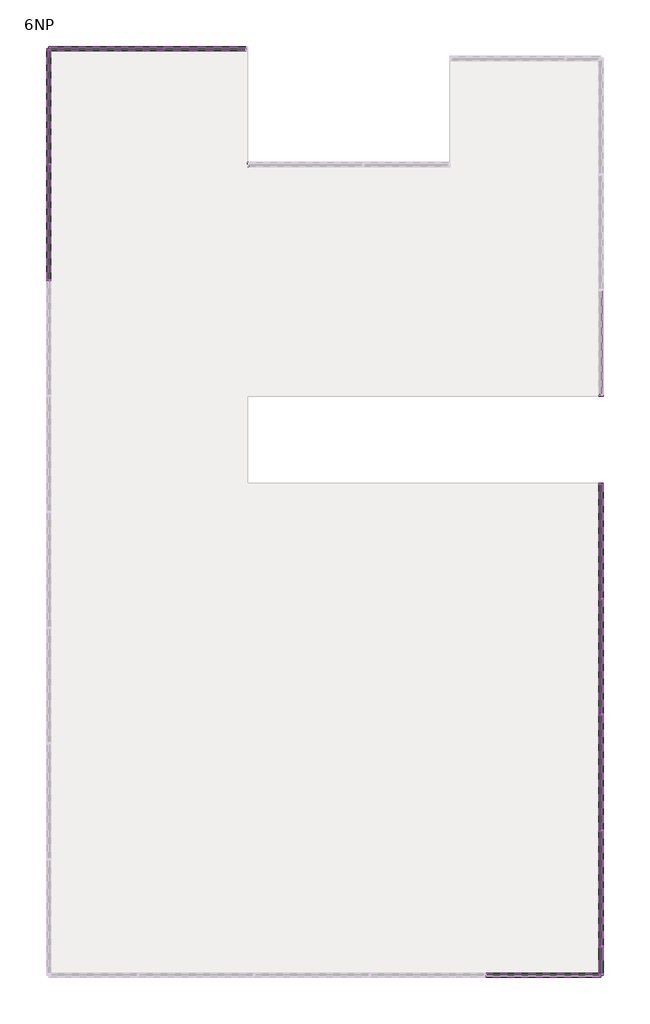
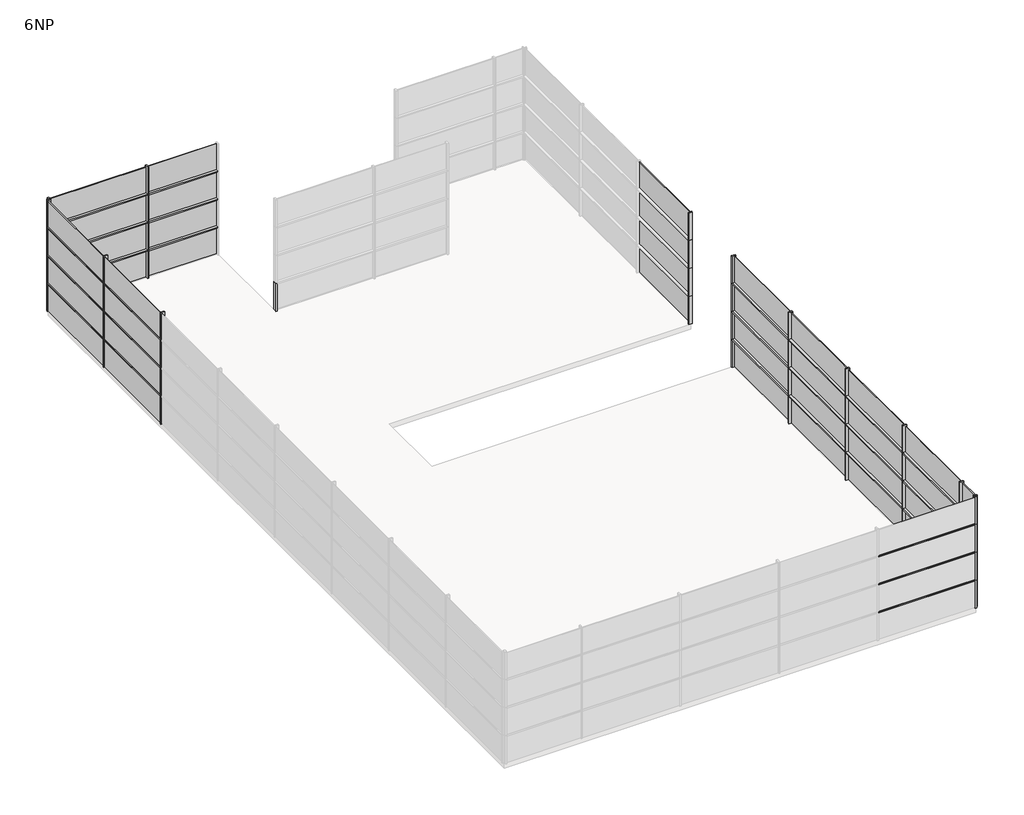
# One storey, part 2 of 3: 83 members, 37 plates.
"""IFC4 building model written with IfcOpenShell, lengths in millimetres."""

from ifc_helpers import new_model, si_unit, origin, place, context, project, spatial, transform, mapped, element, save
from components import rectangular_mullion_50_x_150mm_d99dc9be, rectangular_mullion_50_x_150mm_6588f46c, rectangular_mullion_50_x_150mm_a037c29c, rectangular_mullion_50_x_150mm_c2546fd4, rectangular_mullion_50_x_150mm_568dda71, rectangular_mullion_50_x_150mm_268a5786, rectangular_mullion_50_x_150mm_116cff39, rectangular_mullion_50_x_150mm_8b4cb4b7, system_panel_glazed_8e9402eb, system_panel_glazed_89ac83a7, system_panel_glazed_5566c609, system_panel_glazed_cf4d7c03, system_panel_glazed_7b3729bb, system_panel_glazed_1a112643, system_panel_glazed_9f27e4b4, system_panel_glazed_e890f31e, system_panel_glazed_569c36ed

model = new_model("IFC4")

# Units and contexts
model_context = context("Model", 3, world=origin())
ifc_project = project(units=[si_unit("LENGTHUNIT", "METRE", prefix="MILLI")], contexts=[model_context])

# Site, building, storey
site = spatial("IfcSite", under=ifc_project)
building = spatial("IfcBuilding", under=site)
storey = spatial("IfcBuildingStorey", under=building, Name="6NP", Elevation=24000.0)

# Members
placement = place(None, origin())
rectangular_mullion_50_x_150mm_shape = rectangular_mullion_50_x_150mm_d99dc9be(model_context)
element("IfcMember", 1, ObjectType="Rectangular Mullion : 50 x 150mm", at=placement, inside=storey, context=model_context, shape_type="MappedRepresentation", body=[
    mapped(rectangular_mullion_50_x_150mm_shape, transform((13503.2660975, -10624.0160434, 25200.0), x_axis=(0.0, -1.0, 0.0), y_axis=(1.0, 0.0, 0.0), z_axis=(0.0, 0.0, 1.0))),
])
element("IfcMember", 2, ObjectType="Rectangular Mullion : 50 x 150mm", at=placement, inside=storey, context=model_context, shape_type="MappedRepresentation", body=[
    mapped(rectangular_mullion_50_x_150mm_shape, transform((13503.2660975, -10624.0160434, 26400.0), x_axis=(0.0, -1.0, 0.0), y_axis=(1.0, 0.0, 0.0), z_axis=(0.0, 0.0, 1.0))),
])
element("IfcMember", 3, ObjectType="Rectangular Mullion : 50 x 150mm", at=placement, inside=storey, context=model_context, shape_type="MappedRepresentation", body=[
    mapped(rectangular_mullion_50_x_150mm_shape, transform((13503.2660975, -10624.0160434, 27600.0), x_axis=(0.0, -1.0, 0.0), y_axis=(1.0, 0.0, 0.0), z_axis=(0.0, 0.0, 1.0))),
])
element("IfcMember", 4, ObjectType="Rectangular Mullion : 50 x 150mm", at=placement, inside=storey, context=model_context, shape_type="MappedRepresentation", body=[
    mapped(rectangular_mullion_50_x_150mm_shape, transform((13503.2660975, -14624.0160434, 25200.0), x_axis=(0.0, -1.0, 0.0), y_axis=(1.0, 0.0, 0.0), z_axis=(0.0, 0.0, 1.0))),
])
element("IfcMember", 5, ObjectType="Rectangular Mullion : 50 x 150mm", at=placement, inside=storey, context=model_context, shape_type="MappedRepresentation", body=[
    mapped(rectangular_mullion_50_x_150mm_shape, transform((13503.2660975, -14624.0160434, 26400.0), x_axis=(0.0, -1.0, 0.0), y_axis=(1.0, 0.0, 0.0), z_axis=(0.0, 0.0, 1.0))),
])
element("IfcMember", 6, ObjectType="Rectangular Mullion : 50 x 150mm", at=placement, inside=storey, context=model_context, shape_type="MappedRepresentation", body=[
    mapped(rectangular_mullion_50_x_150mm_shape, transform((13503.2660975, -14624.0160434, 27600.0), x_axis=(0.0, -1.0, 0.0), y_axis=(1.0, 0.0, 0.0), z_axis=(0.0, 0.0, 1.0))),
])
element("IfcMember", 7, ObjectType="Rectangular Mullion : 50 x 150mm", at=placement, inside=storey, context=model_context, shape_type="MappedRepresentation", body=[
    mapped(rectangular_mullion_50_x_150mm_shape, transform((13503.2660975, -18624.0160434, 25200.0), x_axis=(0.0, -1.0, 0.0), y_axis=(1.0, 0.0, 0.0), z_axis=(0.0, 0.0, 1.0))),
])
element("IfcMember", 8, ObjectType="Rectangular Mullion : 50 x 150mm", at=placement, inside=storey, context=model_context, shape_type="MappedRepresentation", body=[
    mapped(rectangular_mullion_50_x_150mm_shape, transform((13503.2660975, -18624.0160434, 26400.0), x_axis=(0.0, -1.0, 0.0), y_axis=(1.0, 0.0, 0.0), z_axis=(0.0, 0.0, 1.0))),
])
element("IfcMember", 9, ObjectType="Rectangular Mullion : 50 x 150mm", at=placement, inside=storey, context=model_context, shape_type="MappedRepresentation", body=[
    mapped(rectangular_mullion_50_x_150mm_shape, transform((13503.2660975, -18624.0160434, 27600.0), x_axis=(0.0, -1.0, 0.0), y_axis=(1.0, 0.0, 0.0), z_axis=(0.0, 0.0, 1.0))),
])
element("IfcMember", 10, ObjectType="Rectangular Mullion : 50 x 150mm", at=placement, inside=storey, context=model_context, shape_type="MappedRepresentation", body=[
    mapped(rectangular_mullion_50_x_150mm_shape, transform((13503.2660975, -22624.0160434, 25200.0), x_axis=(0.0, -1.0, 0.0), y_axis=(1.0, 0.0, 0.0), z_axis=(0.0, 0.0, 1.0))),
])
element("IfcMember", 11, ObjectType="Rectangular Mullion : 50 x 150mm", at=placement, inside=storey, context=model_context, shape_type="MappedRepresentation", body=[
    mapped(rectangular_mullion_50_x_150mm_shape, transform((13503.2660975, -22624.0160434, 26400.0), x_axis=(0.0, -1.0, 0.0), y_axis=(1.0, 0.0, 0.0), z_axis=(0.0, 0.0, 1.0))),
])
element("IfcMember", 12, ObjectType="Rectangular Mullion : 50 x 150mm", at=placement, inside=storey, context=model_context, shape_type="MappedRepresentation", body=[
    mapped(rectangular_mullion_50_x_150mm_shape, transform((13503.2660975, -22624.0160434, 27600.0), x_axis=(0.0, -1.0, 0.0), y_axis=(1.0, 0.0, 0.0), z_axis=(0.0, 0.0, 1.0))),
])
element("IfcMember", 13, ObjectType="Rectangular Mullion : 50 x 150mm", at=placement, inside=storey, context=model_context, shape_type="MappedRepresentation", body=[
    mapped(rectangular_mullion_50_x_150mm_shape, transform((-5587.173406, 375.9839566, 25200.0), x_axis=(0.0, 1.0, 0.0), y_axis=(-1.0, 0.0, 0.0), z_axis=(0.0, 0.0, 1.0))),
])
element("IfcMember", 14, ObjectType="Rectangular Mullion : 50 x 150mm", at=placement, inside=storey, context=model_context, shape_type="MappedRepresentation", body=[
    mapped(rectangular_mullion_50_x_150mm_shape, transform((-5587.173406, 375.9839566, 26400.0), x_axis=(0.0, 1.0, 0.0), y_axis=(-1.0, 0.0, 0.0), z_axis=(0.0, 0.0, 1.0))),
])
element("IfcMember", 15, ObjectType="Rectangular Mullion : 50 x 150mm", at=placement, inside=storey, context=model_context, shape_type="MappedRepresentation", body=[
    mapped(rectangular_mullion_50_x_150mm_shape, transform((-5587.173406, 375.9839566, 27600.0), x_axis=(0.0, 1.0, 0.0), y_axis=(-1.0, 0.0, 0.0), z_axis=(0.0, 0.0, 1.0))),
])
element("IfcMember", 16, ObjectType="Rectangular Mullion : 50 x 150mm", at=placement, inside=storey, context=model_context, shape_type="MappedRepresentation", body=[
    mapped(rectangular_mullion_50_x_150mm_shape, transform((-5587.173406, 4375.9839566, 25200.0), x_axis=(0.0, 1.0, 0.0), y_axis=(-1.0, 0.0, 0.0), z_axis=(0.0, 0.0, 1.0))),
])
element("IfcMember", 17, ObjectType="Rectangular Mullion : 50 x 150mm", at=placement, inside=storey, context=model_context, shape_type="MappedRepresentation", body=[
    mapped(rectangular_mullion_50_x_150mm_shape, transform((-5587.173406, 4375.9839566, 26400.0), x_axis=(0.0, 1.0, 0.0), y_axis=(-1.0, 0.0, 0.0), z_axis=(0.0, 0.0, 1.0))),
])
element("IfcMember", 18, ObjectType="Rectangular Mullion : 50 x 150mm", at=placement, inside=storey, context=model_context, shape_type="MappedRepresentation", body=[
    mapped(rectangular_mullion_50_x_150mm_shape, transform((-5587.173406, 4375.9839566, 27600.0), x_axis=(0.0, 1.0, 0.0), y_axis=(-1.0, 0.0, 0.0), z_axis=(0.0, 0.0, 1.0))),
])
element("IfcMember", 19, ObjectType="Rectangular Mullion : 50 x 150mm", at=placement, inside=storey, context=model_context, shape_type="MappedRepresentation", body=[
    mapped(rectangular_mullion_50_x_150mm_shape, transform((-1587.173406, 8375.9839566, 25200.0), x_axis=(1.0, 0.0, 0.0), y_axis=(0.0, 1.0, 0.0), z_axis=(0.0, 0.0, 1.0))),
])
element("IfcMember", 20, ObjectType="Rectangular Mullion : 50 x 150mm", at=placement, inside=storey, context=model_context, shape_type="MappedRepresentation", body=[
    mapped(rectangular_mullion_50_x_150mm_shape, transform((-1587.173406, 8375.9839566, 26400.0), x_axis=(1.0, 0.0, 0.0), y_axis=(0.0, 1.0, 0.0), z_axis=(0.0, 0.0, 1.0))),
])
element("IfcMember", 21, ObjectType="Rectangular Mullion : 50 x 150mm", at=placement, inside=storey, context=model_context, shape_type="MappedRepresentation", body=[
    mapped(rectangular_mullion_50_x_150mm_shape, transform((-1587.173406, 8375.9839566, 27600.0), x_axis=(1.0, 0.0, 0.0), y_axis=(0.0, 1.0, 0.0), z_axis=(0.0, 0.0, 1.0))),
])
rectangular_mullion_50_x_150mm_2_shape = rectangular_mullion_50_x_150mm_6588f46c(model_context)
element("IfcMember", 22, ObjectType="Rectangular Mullion : 50 x 150mm", at=placement, inside=storey, context=model_context, shape_type="MappedRepresentation", body=[
    mapped(rectangular_mullion_50_x_150mm_2_shape, transform((13503.2660975, -3624.0160434, 27600.0), x_axis=(0.0, -1.0, 0.0), y_axis=(1.0, 0.0, 0.0), z_axis=(0.0, 0.0, 1.0))),
])
element("IfcMember", 23, ObjectType="Rectangular Mullion : 50 x 150mm", at=placement, inside=storey, context=model_context, shape_type="MappedRepresentation", body=[
    mapped(rectangular_mullion_50_x_150mm_2_shape, transform((13503.2660975, -3624.0160434, 26400.0), x_axis=(0.0, -1.0, 0.0), y_axis=(1.0, 0.0, 0.0), z_axis=(0.0, 0.0, 1.0))),
])
element("IfcMember", 24, ObjectType="Rectangular Mullion : 50 x 150mm", at=placement, inside=storey, context=model_context, shape_type="MappedRepresentation", body=[
    mapped(rectangular_mullion_50_x_150mm_2_shape, transform((13503.2660975, -3624.0160434, 25200.0), x_axis=(0.0, -1.0, 0.0), y_axis=(1.0, 0.0, 0.0), z_axis=(0.0, 0.0, 1.0))),
])
element("IfcMember", 25, ObjectType="Rectangular Mullion : 50 x 150mm", at=placement, inside=storey, context=model_context, shape_type="MappedRepresentation", body=[
    mapped(rectangular_mullion_50_x_150mm_2_shape, transform((13503.2660975, -23624.0160434, 25200.0), x_axis=(0.0, -1.0, 0.0), y_axis=(1.0, 0.0, 0.0), z_axis=(0.0, 0.0, 1.0))),
])
element("IfcMember", 26, ObjectType="Rectangular Mullion : 50 x 150mm", at=placement, inside=storey, context=model_context, shape_type="MappedRepresentation", body=[
    mapped(rectangular_mullion_50_x_150mm_2_shape, transform((13503.2660975, -23624.0160434, 26400.0), x_axis=(0.0, -1.0, 0.0), y_axis=(1.0, 0.0, 0.0), z_axis=(0.0, 0.0, 1.0))),
])
element("IfcMember", 27, ObjectType="Rectangular Mullion : 50 x 150mm", at=placement, inside=storey, context=model_context, shape_type="MappedRepresentation", body=[
    mapped(rectangular_mullion_50_x_150mm_2_shape, transform((13503.2660975, -23624.0160434, 27600.0), x_axis=(0.0, -1.0, 0.0), y_axis=(1.0, 0.0, 0.0), z_axis=(0.0, 0.0, 1.0))),
])
element("IfcMember", 28, ObjectType="Rectangular Mullion : 50 x 150mm", at=placement, inside=storey, context=model_context, shape_type="MappedRepresentation", body=[
    mapped(rectangular_mullion_50_x_150mm_2_shape, transform((-5587.173406, 8375.9839566, 25200.0), x_axis=(0.0, 1.0, 0.0), y_axis=(-1.0, 0.0, 0.0), z_axis=(0.0, 0.0, 1.0))),
])
element("IfcMember", 29, ObjectType="Rectangular Mullion : 50 x 150mm", at=placement, inside=storey, context=model_context, shape_type="MappedRepresentation", body=[
    mapped(rectangular_mullion_50_x_150mm_2_shape, transform((-5587.173406, 8375.9839566, 26400.0), x_axis=(0.0, 1.0, 0.0), y_axis=(-1.0, 0.0, 0.0), z_axis=(0.0, 0.0, 1.0))),
])
element("IfcMember", 30, ObjectType="Rectangular Mullion : 50 x 150mm", at=placement, inside=storey, context=model_context, shape_type="MappedRepresentation", body=[
    mapped(rectangular_mullion_50_x_150mm_2_shape, transform((-5587.173406, 8375.9839566, 27600.0), x_axis=(0.0, 1.0, 0.0), y_axis=(-1.0, 0.0, 0.0), z_axis=(0.0, 0.0, 1.0))),
])
rectangular_mullion_50_x_150mm_3_shape = rectangular_mullion_50_x_150mm_a037c29c(model_context)
element("IfcMember", 31, ObjectType="Rectangular Mullion : 50 x 150mm", at=placement, inside=storey, context=model_context, shape_type="MappedRepresentation", body=[
    mapped(rectangular_mullion_50_x_150mm_3_shape, transform((13503.2660975, -10649.0160434, 25200.0), x_axis=(0.0, 0.0, 1.0), y_axis=(1.0, 0.0, 0.0), z_axis=(0.0, 1.0, 0.0))),
])
element("IfcMember", 32, ObjectType="Rectangular Mullion : 50 x 150mm", at=placement, inside=storey, context=model_context, shape_type="MappedRepresentation", body=[
    mapped(rectangular_mullion_50_x_150mm_3_shape, transform((13503.2660975, -14649.0160434, 25200.0), x_axis=(0.0, 0.0, 1.0), y_axis=(1.0, 0.0, 0.0), z_axis=(0.0, 1.0, 0.0))),
])
element("IfcMember", 33, ObjectType="Rectangular Mullion : 50 x 150mm", at=placement, inside=storey, context=model_context, shape_type="MappedRepresentation", body=[
    mapped(rectangular_mullion_50_x_150mm_3_shape, transform((13503.2660975, -18649.0160434, 25200.0), x_axis=(0.0, 0.0, 1.0), y_axis=(1.0, 0.0, 0.0), z_axis=(0.0, 1.0, 0.0))),
])
element("IfcMember", 34, ObjectType="Rectangular Mullion : 50 x 150mm", at=placement, inside=storey, context=model_context, shape_type="MappedRepresentation", body=[
    mapped(rectangular_mullion_50_x_150mm_3_shape, transform((13503.2660975, -10649.0160434, 26400.0), x_axis=(0.0, 0.0, 1.0), y_axis=(1.0, 0.0, 0.0), z_axis=(0.0, 1.0, 0.0))),
])
element("IfcMember", 35, ObjectType="Rectangular Mullion : 50 x 150mm", at=placement, inside=storey, context=model_context, shape_type="MappedRepresentation", body=[
    mapped(rectangular_mullion_50_x_150mm_3_shape, transform((13503.2660975, -14649.0160434, 26400.0), x_axis=(0.0, 0.0, 1.0), y_axis=(1.0, 0.0, 0.0), z_axis=(0.0, 1.0, 0.0))),
])
element("IfcMember", 36, ObjectType="Rectangular Mullion : 50 x 150mm", at=placement, inside=storey, context=model_context, shape_type="MappedRepresentation", body=[
    mapped(rectangular_mullion_50_x_150mm_3_shape, transform((13503.2660975, -18649.0160434, 26400.0), x_axis=(0.0, 0.0, 1.0), y_axis=(1.0, 0.0, 0.0), z_axis=(0.0, 1.0, 0.0))),
])
element("IfcMember", 37, ObjectType="Rectangular Mullion : 50 x 150mm", at=placement, inside=storey, context=model_context, shape_type="MappedRepresentation", body=[
    mapped(rectangular_mullion_50_x_150mm_3_shape, transform((13503.2660975, -10649.0160434, 27600.0), x_axis=(0.0, 0.0, 1.0), y_axis=(1.0, 0.0, 0.0), z_axis=(0.0, 1.0, 0.0))),
])
element("IfcMember", 38, ObjectType="Rectangular Mullion : 50 x 150mm", at=placement, inside=storey, context=model_context, shape_type="MappedRepresentation", body=[
    mapped(rectangular_mullion_50_x_150mm_3_shape, transform((13503.2660975, -14649.0160434, 27600.0), x_axis=(0.0, 0.0, 1.0), y_axis=(1.0, 0.0, 0.0), z_axis=(0.0, 1.0, 0.0))),
])
element("IfcMember", 39, ObjectType="Rectangular Mullion : 50 x 150mm", at=placement, inside=storey, context=model_context, shape_type="MappedRepresentation", body=[
    mapped(rectangular_mullion_50_x_150mm_3_shape, transform((13503.2660975, -18649.0160434, 27600.0), x_axis=(0.0, 0.0, 1.0), y_axis=(1.0, 0.0, 0.0), z_axis=(0.0, 1.0, 0.0))),
])
element("IfcMember", 40, ObjectType="Rectangular Mullion : 50 x 150mm", at=placement, inside=storey, context=model_context, shape_type="MappedRepresentation", body=[
    mapped(rectangular_mullion_50_x_150mm_3_shape, transform((-5587.173406, 400.9839566, 25200.0), x_axis=(0.0, 0.0, 1.0), y_axis=(-1.0, 0.0, 0.0), z_axis=(0.0, -1.0, 0.0))),
])
element("IfcMember", 41, ObjectType="Rectangular Mullion : 50 x 150mm", at=placement, inside=storey, context=model_context, shape_type="MappedRepresentation", body=[
    mapped(rectangular_mullion_50_x_150mm_3_shape, transform((-5587.173406, 400.9839566, 26400.0), x_axis=(0.0, 0.0, 1.0), y_axis=(-1.0, 0.0, 0.0), z_axis=(0.0, -1.0, 0.0))),
])
element("IfcMember", 42, ObjectType="Rectangular Mullion : 50 x 150mm", at=placement, inside=storey, context=model_context, shape_type="MappedRepresentation", body=[
    mapped(rectangular_mullion_50_x_150mm_3_shape, transform((-5587.173406, 400.9839566, 27600.0), x_axis=(0.0, 0.0, 1.0), y_axis=(-1.0, 0.0, 0.0), z_axis=(0.0, -1.0, 0.0))),
])
rectangular_mullion_50_x_150mm_4_shape = rectangular_mullion_50_x_150mm_c2546fd4(model_context)
element("IfcMember", 43, ObjectType="Rectangular Mullion : 50 x 150mm", at=placement, inside=storey, context=model_context, shape_type="MappedRepresentation", body=[
    mapped(rectangular_mullion_50_x_150mm_4_shape, transform((13503.2660975, -6674.0160434, 25200.0), x_axis=(0.0, 0.0, 1.0), y_axis=(1.0, 0.0, 0.0), z_axis=(0.0, 1.0, 0.0))),
])
element("IfcMember", 44, ObjectType="Rectangular Mullion : 50 x 150mm", at=placement, inside=storey, context=model_context, shape_type="MappedRepresentation", body=[
    mapped(rectangular_mullion_50_x_150mm_4_shape, transform((13503.2660975, -6674.0160434, 26400.0), x_axis=(0.0, 0.0, 1.0), y_axis=(1.0, 0.0, 0.0), z_axis=(0.0, 1.0, 0.0))),
])
element("IfcMember", 45, ObjectType="Rectangular Mullion : 50 x 150mm", at=placement, inside=storey, context=model_context, shape_type="MappedRepresentation", body=[
    mapped(rectangular_mullion_50_x_150mm_4_shape, transform((13503.2660975, -6674.0160434, 27600.0), x_axis=(0.0, 0.0, 1.0), y_axis=(1.0, 0.0, 0.0), z_axis=(0.0, 1.0, 0.0))),
])
element("IfcMember", 46, ObjectType="Rectangular Mullion : 50 x 150mm", at=placement, inside=storey, context=model_context, shape_type="MappedRepresentation", body=[
    mapped(rectangular_mullion_50_x_150mm_4_shape, transform((13453.2660975, -23624.0160434, 25200.0), x_axis=(0.0, 0.0, 1.0), y_axis=(0.0, -1.0, 0.0), z_axis=(1.0, 0.0, 0.0))),
])
element("IfcMember", 47, ObjectType="Rectangular Mullion : 50 x 150mm", at=placement, inside=storey, context=model_context, shape_type="MappedRepresentation", body=[
    mapped(rectangular_mullion_50_x_150mm_4_shape, transform((13453.2660975, -23624.0160434, 26400.0), x_axis=(0.0, 0.0, 1.0), y_axis=(0.0, -1.0, 0.0), z_axis=(1.0, 0.0, 0.0))),
])
element("IfcMember", 48, ObjectType="Rectangular Mullion : 50 x 150mm", at=placement, inside=storey, context=model_context, shape_type="MappedRepresentation", body=[
    mapped(rectangular_mullion_50_x_150mm_4_shape, transform((13453.2660975, -23624.0160434, 27600.0), x_axis=(0.0, 0.0, 1.0), y_axis=(0.0, -1.0, 0.0), z_axis=(1.0, 0.0, 0.0))),
])
element("IfcMember", 49, ObjectType="Rectangular Mullion : 50 x 150mm", at=placement, inside=storey, context=model_context, shape_type="MappedRepresentation", body=[
    mapped(rectangular_mullion_50_x_150mm_4_shape, transform((-5587.173406, 4400.9839566, 25200.0), x_axis=(0.0, 0.0, 1.0), y_axis=(-1.0, 0.0, 0.0), z_axis=(0.0, -1.0, 0.0))),
])
element("IfcMember", 50, ObjectType="Rectangular Mullion : 50 x 150mm", at=placement, inside=storey, context=model_context, shape_type="MappedRepresentation", body=[
    mapped(rectangular_mullion_50_x_150mm_4_shape, transform((-5587.173406, 4400.9839566, 26400.0), x_axis=(0.0, 0.0, 1.0), y_axis=(-1.0, 0.0, 0.0), z_axis=(0.0, -1.0, 0.0))),
])
element("IfcMember", 51, ObjectType="Rectangular Mullion : 50 x 150mm", at=placement, inside=storey, context=model_context, shape_type="MappedRepresentation", body=[
    mapped(rectangular_mullion_50_x_150mm_4_shape, transform((-5587.173406, 4400.9839566, 27600.0), x_axis=(0.0, 0.0, 1.0), y_axis=(-1.0, 0.0, 0.0), z_axis=(0.0, -1.0, 0.0))),
])
element("IfcMember", 52, ObjectType="Rectangular Mullion : 50 x 150mm", at=placement, inside=storey, context=model_context, shape_type="MappedRepresentation", body=[
    mapped(rectangular_mullion_50_x_150mm_4_shape, transform((-5537.173406, 8375.9839566, 25200.0), x_axis=(0.0, 0.0, 1.0), y_axis=(0.0, 1.0, 0.0), z_axis=(-1.0, 0.0, 0.0))),
])
element("IfcMember", 53, ObjectType="Rectangular Mullion : 50 x 150mm", at=placement, inside=storey, context=model_context, shape_type="MappedRepresentation", body=[
    mapped(rectangular_mullion_50_x_150mm_4_shape, transform((-5537.173406, 8375.9839566, 26400.0), x_axis=(0.0, 0.0, 1.0), y_axis=(0.0, 1.0, 0.0), z_axis=(-1.0, 0.0, 0.0))),
])
element("IfcMember", 54, ObjectType="Rectangular Mullion : 50 x 150mm", at=placement, inside=storey, context=model_context, shape_type="MappedRepresentation", body=[
    mapped(rectangular_mullion_50_x_150mm_4_shape, transform((-5537.173406, 8375.9839566, 27600.0), x_axis=(0.0, 0.0, 1.0), y_axis=(0.0, 1.0, 0.0), z_axis=(-1.0, 0.0, 0.0))),
])
rectangular_mullion_50_x_150mm_5_shape = rectangular_mullion_50_x_150mm_568dda71(model_context)
element("IfcMember", 55, ObjectType="Rectangular Mullion : 50 x 150mm", at=placement, inside=storey, context=model_context, shape_type="MappedRepresentation", body=[
    mapped(rectangular_mullion_50_x_150mm_5_shape, transform((13503.2660975, -22624.0160434, 28773.2453384), x_axis=(0.0, -1.0, 0.0), y_axis=(1.0, 0.0, 0.0), z_axis=(0.0, 0.0, 1.0))),
])
element("IfcMember", 56, ObjectType="Rectangular Mullion : 50 x 150mm", at=placement, inside=storey, context=model_context, shape_type="MappedRepresentation", body=[
    mapped(rectangular_mullion_50_x_150mm_5_shape, transform((13503.2660975, -18624.0160434, 28773.2453384), x_axis=(0.0, -1.0, 0.0), y_axis=(1.0, 0.0, 0.0), z_axis=(0.0, 0.0, 1.0))),
])
element("IfcMember", 57, ObjectType="Rectangular Mullion : 50 x 150mm", at=placement, inside=storey, context=model_context, shape_type="MappedRepresentation", body=[
    mapped(rectangular_mullion_50_x_150mm_5_shape, transform((13503.2660975, -14624.0160434, 28773.2453384), x_axis=(0.0, -1.0, 0.0), y_axis=(1.0, 0.0, 0.0), z_axis=(0.0, 0.0, 1.0))),
])
element("IfcMember", 58, ObjectType="Rectangular Mullion : 50 x 150mm", at=placement, inside=storey, context=model_context, shape_type="MappedRepresentation", body=[
    mapped(rectangular_mullion_50_x_150mm_5_shape, transform((13503.2660975, -10624.0160434, 28773.2453384), x_axis=(0.0, -1.0, 0.0), y_axis=(1.0, 0.0, 0.0), z_axis=(0.0, 0.0, 1.0))),
])
element("IfcMember", 59, ObjectType="Rectangular Mullion : 50 x 150mm", at=placement, inside=storey, context=model_context, shape_type="MappedRepresentation", body=[
    mapped(rectangular_mullion_50_x_150mm_5_shape, transform((-5587.173406, 375.9839566, 28773.2453384), x_axis=(0.0, 1.0, 0.0), y_axis=(-1.0, 0.0, 0.0), z_axis=(0.0, 0.0, 1.0))),
])
element("IfcMember", 60, ObjectType="Rectangular Mullion : 50 x 150mm", at=placement, inside=storey, context=model_context, shape_type="MappedRepresentation", body=[
    mapped(rectangular_mullion_50_x_150mm_5_shape, transform((-5587.173406, 4375.9839566, 28773.2453384), x_axis=(0.0, 1.0, 0.0), y_axis=(-1.0, 0.0, 0.0), z_axis=(0.0, 0.0, 1.0))),
])
element("IfcMember", 61, ObjectType="Rectangular Mullion : 50 x 150mm", at=placement, inside=storey, context=model_context, shape_type="MappedRepresentation", body=[
    mapped(rectangular_mullion_50_x_150mm_5_shape, transform((-1587.173406, 8375.9839566, 28773.2453384), x_axis=(1.0, 0.0, 0.0), y_axis=(0.0, 1.0, 0.0), z_axis=(0.0, 0.0, 1.0))),
])
rectangular_mullion_50_x_150mm_6_shape = rectangular_mullion_50_x_150mm_268a5786(model_context)
element("IfcMember", 62, ObjectType="Rectangular Mullion : 50 x 150mm", at=placement, inside=storey, context=model_context, shape_type="MappedRepresentation", body=[
    mapped(rectangular_mullion_50_x_150mm_6_shape, transform((13503.2660975, -3624.0160434, 28773.2453384), x_axis=(0.0, -1.0, 0.0), y_axis=(1.0, 0.0, 0.0), z_axis=(0.0, 0.0, 1.0))),
])
element("IfcMember", 63, ObjectType="Rectangular Mullion : 50 x 150mm", at=placement, inside=storey, context=model_context, shape_type="MappedRepresentation", body=[
    mapped(rectangular_mullion_50_x_150mm_6_shape, transform((13503.2660975, -23624.0160434, 28773.2453384), x_axis=(0.0, -1.0, 0.0), y_axis=(1.0, 0.0, 0.0), z_axis=(0.0, 0.0, 1.0))),
])
element("IfcMember", 64, ObjectType="Rectangular Mullion : 50 x 150mm", at=placement, inside=storey, context=model_context, shape_type="MappedRepresentation", body=[
    mapped(rectangular_mullion_50_x_150mm_6_shape, transform((-5587.173406, 8375.9839566, 28773.2453384), x_axis=(0.0, 1.0, 0.0), y_axis=(-1.0, 0.0, 0.0), z_axis=(0.0, 0.0, 1.0))),
])
element("IfcMember", 65, ObjectType="Rectangular Mullion : 50 x 150mm", at=placement, inside=storey, context=model_context, shape_type="MappedRepresentation", body=[
    mapped(rectangular_mullion_50_x_150mm_6_shape, transform((13503.2660975, -6624.0160434, 27600.0), x_axis=(0.0, 1.0, 0.0), y_axis=(1.0, 0.0, 0.0), z_axis=(0.0, 0.0, -1.0))),
])
element("IfcMember", 66, ObjectType="Rectangular Mullion : 50 x 150mm", at=placement, inside=storey, context=model_context, shape_type="MappedRepresentation", body=[
    mapped(rectangular_mullion_50_x_150mm_6_shape, transform((13503.2660975, -23624.0160434, 27600.0), x_axis=(1.0, 0.0, 0.0), y_axis=(0.0, -1.0, 0.0), z_axis=(0.0, 0.0, -1.0))),
])
element("IfcMember", 67, ObjectType="Rectangular Mullion : 50 x 150mm", at=placement, inside=storey, context=model_context, shape_type="MappedRepresentation", body=[
    mapped(rectangular_mullion_50_x_150mm_6_shape, transform((-5587.173406, 8375.9839566, 27600.0), x_axis=(-1.0, 0.0, 0.0), y_axis=(0.0, 1.0, 0.0), z_axis=(0.0, 0.0, -1.0))),
])
element("IfcMember", 68, ObjectType="Rectangular Mullion : 50 x 150mm", at=placement, inside=storey, context=model_context, shape_type="MappedRepresentation", body=[
    mapped(rectangular_mullion_50_x_150mm_2_shape, transform((13503.2660975, -6624.0160434, 24000.0), x_axis=(0.0, 1.0, 0.0), y_axis=(1.0, 0.0, 0.0), z_axis=(0.0, 0.0, -1.0))),
])
element("IfcMember", 69, ObjectType="Rectangular Mullion : 50 x 150mm", at=placement, inside=storey, context=model_context, shape_type="MappedRepresentation", body=[
    mapped(rectangular_mullion_50_x_150mm_2_shape, transform((13503.2660975, -6624.0160434, 25200.0), x_axis=(0.0, 1.0, 0.0), y_axis=(1.0, 0.0, 0.0), z_axis=(0.0, 0.0, -1.0))),
])
element("IfcMember", 70, ObjectType="Rectangular Mullion : 50 x 150mm", at=placement, inside=storey, context=model_context, shape_type="MappedRepresentation", body=[
    mapped(rectangular_mullion_50_x_150mm_2_shape, transform((13503.2660975, -6624.0160434, 26400.0), x_axis=(0.0, 1.0, 0.0), y_axis=(1.0, 0.0, 0.0), z_axis=(0.0, 0.0, -1.0))),
])
element("IfcMember", 71, ObjectType="Rectangular Mullion : 50 x 150mm", at=placement, inside=storey, context=model_context, shape_type="MappedRepresentation", body=[
    mapped(rectangular_mullion_50_x_150mm_2_shape, transform((13503.2660975, -23624.0160434, 24000.0), x_axis=(1.0, 0.0, 0.0), y_axis=(0.0, -1.0, 0.0), z_axis=(0.0, 0.0, -1.0))),
])
element("IfcMember", 72, ObjectType="Rectangular Mullion : 50 x 150mm", at=placement, inside=storey, context=model_context, shape_type="MappedRepresentation", body=[
    mapped(rectangular_mullion_50_x_150mm_2_shape, transform((13503.2660975, -23624.0160434, 25200.0), x_axis=(1.0, 0.0, 0.0), y_axis=(0.0, -1.0, 0.0), z_axis=(0.0, 0.0, -1.0))),
])
element("IfcMember", 73, ObjectType="Rectangular Mullion : 50 x 150mm", at=placement, inside=storey, context=model_context, shape_type="MappedRepresentation", body=[
    mapped(rectangular_mullion_50_x_150mm_2_shape, transform((13503.2660975, -23624.0160434, 26400.0), x_axis=(1.0, 0.0, 0.0), y_axis=(0.0, -1.0, 0.0), z_axis=(0.0, 0.0, -1.0))),
])
element("IfcMember", 74, ObjectType="Rectangular Mullion : 50 x 150mm", at=placement, inside=storey, context=model_context, shape_type="MappedRepresentation", body=[
    mapped(rectangular_mullion_50_x_150mm_2_shape, transform((-5587.173406, 8375.9839566, 24000.0), x_axis=(-1.0, 0.0, 0.0), y_axis=(0.0, 1.0, 0.0), z_axis=(0.0, 0.0, -1.0))),
])
element("IfcMember", 75, ObjectType="Rectangular Mullion : 50 x 150mm", at=placement, inside=storey, context=model_context, shape_type="MappedRepresentation", body=[
    mapped(rectangular_mullion_50_x_150mm_2_shape, transform((-5587.173406, 8375.9839566, 25200.0), x_axis=(-1.0, 0.0, 0.0), y_axis=(0.0, 1.0, 0.0), z_axis=(0.0, 0.0, -1.0))),
])
element("IfcMember", 76, ObjectType="Rectangular Mullion : 50 x 150mm", at=placement, inside=storey, context=model_context, shape_type="MappedRepresentation", body=[
    mapped(rectangular_mullion_50_x_150mm_2_shape, transform((-5587.173406, 8375.9839566, 26400.0), x_axis=(-1.0, 0.0, 0.0), y_axis=(0.0, 1.0, 0.0), z_axis=(0.0, 0.0, -1.0))),
])
element("IfcMember", 77, ObjectType="Rectangular Mullion : 50 x 150mm", at=placement, inside=storey, context=model_context, shape_type="MappedRepresentation", body=[
    mapped(rectangular_mullion_50_x_150mm_2_shape, transform((1278.419219, 4375.9839566, 24000.0), x_axis=(-1.0, 0.0, 0.0), y_axis=(0.0, 1.0, 0.0), z_axis=(0.0, 0.0, -1.0))),
])
rectangular_mullion_50_x_150mm_7_shape = rectangular_mullion_50_x_150mm_116cff39(model_context)
element("IfcMember", 78, ObjectType="Rectangular Mullion : 50 x 150mm", at=placement, inside=storey, context=model_context, shape_type="MappedRepresentation", body=[
    mapped(rectangular_mullion_50_x_150mm_7_shape, transform((13503.2660975, -22649.0160434, 25200.0), x_axis=(0.0, 0.0, 1.0), y_axis=(1.0, 0.0, 0.0), z_axis=(0.0, 1.0, 0.0))),
])
element("IfcMember", 79, ObjectType="Rectangular Mullion : 50 x 150mm", at=placement, inside=storey, context=model_context, shape_type="MappedRepresentation", body=[
    mapped(rectangular_mullion_50_x_150mm_7_shape, transform((13503.2660975, -22649.0160434, 26400.0), x_axis=(0.0, 0.0, 1.0), y_axis=(1.0, 0.0, 0.0), z_axis=(0.0, 1.0, 0.0))),
])
element("IfcMember", 80, ObjectType="Rectangular Mullion : 50 x 150mm", at=placement, inside=storey, context=model_context, shape_type="MappedRepresentation", body=[
    mapped(rectangular_mullion_50_x_150mm_7_shape, transform((13503.2660975, -22649.0160434, 27600.0), x_axis=(0.0, 0.0, 1.0), y_axis=(1.0, 0.0, 0.0), z_axis=(0.0, 1.0, 0.0))),
])
rectangular_mullion_50_x_150mm_8_shape = rectangular_mullion_50_x_150mm_8b4cb4b7(model_context)
element("IfcMember", 81, ObjectType="Rectangular Mullion : 50 x 150mm", at=placement, inside=storey, context=model_context, shape_type="MappedRepresentation", body=[
    mapped(rectangular_mullion_50_x_150mm_8_shape, transform((-1562.173406, 8375.9839566, 25200.0), x_axis=(0.0, 0.0, 1.0), y_axis=(0.0, 1.0, 0.0), z_axis=(-1.0, 0.0, 0.0))),
])
element("IfcMember", 82, ObjectType="Rectangular Mullion : 50 x 150mm", at=placement, inside=storey, context=model_context, shape_type="MappedRepresentation", body=[
    mapped(rectangular_mullion_50_x_150mm_8_shape, transform((-1562.173406, 8375.9839566, 26400.0), x_axis=(0.0, 0.0, 1.0), y_axis=(0.0, 1.0, 0.0), z_axis=(-1.0, 0.0, 0.0))),
])
element("IfcMember", 83, ObjectType="Rectangular Mullion : 50 x 150mm", at=placement, inside=storey, context=model_context, shape_type="MappedRepresentation", body=[
    mapped(rectangular_mullion_50_x_150mm_8_shape, transform((-1562.173406, 8375.9839566, 27600.0), x_axis=(0.0, 0.0, 1.0), y_axis=(0.0, 1.0, 0.0), z_axis=(-1.0, 0.0, 0.0))),
])

# Plates
system_panel_glazed_shape = system_panel_glazed_8e9402eb(model_context)
element("IfcPlate", 84, ObjectType="System Panel : Glazed", at=placement, inside=storey, context=model_context, shape_type="MappedRepresentation", body=[
    mapped(system_panel_glazed_shape, transform((-5587.173406, 6363.4839566, 24025.0), x_axis=(0.0, 1.0, 0.0), y_axis=(-1.0, 0.0, 0.0), z_axis=(0.0, 0.0, 1.0))),
])
element("IfcPlate", 85, ObjectType="System Panel : Glazed", at=placement, inside=storey, context=model_context, shape_type="MappedRepresentation", body=[
    mapped(system_panel_glazed_shape, transform((-5587.173406, 6363.4839566, 25225.0), x_axis=(0.0, 1.0, 0.0), y_axis=(-1.0, 0.0, 0.0), z_axis=(0.0, 0.0, 1.0))),
])
element("IfcPlate", 86, ObjectType="System Panel : Glazed", at=placement, inside=storey, context=model_context, shape_type="MappedRepresentation", body=[
    mapped(system_panel_glazed_shape, transform((-5587.173406, 6363.4839566, 26425.0), x_axis=(0.0, 1.0, 0.0), y_axis=(-1.0, 0.0, 0.0), z_axis=(0.0, 0.0, 1.0))),
])
element("IfcPlate", 87, ObjectType="System Panel : Glazed", at=placement, inside=storey, context=model_context, shape_type="MappedRepresentation", body=[
    mapped(system_panel_glazed_shape, transform((13503.2660975, -8636.5160434, 24025.0), x_axis=(0.0, -1.0, 0.0), y_axis=(1.0, 0.0, 0.0), z_axis=(0.0, 0.0, 1.0))),
])
element("IfcPlate", 88, ObjectType="System Panel : Glazed", at=placement, inside=storey, context=model_context, shape_type="MappedRepresentation", body=[
    mapped(system_panel_glazed_shape, transform((13503.2660975, -8636.5160434, 25225.0), x_axis=(0.0, -1.0, 0.0), y_axis=(1.0, 0.0, 0.0), z_axis=(0.0, 0.0, 1.0))),
])
element("IfcPlate", 89, ObjectType="System Panel : Glazed", at=placement, inside=storey, context=model_context, shape_type="MappedRepresentation", body=[
    mapped(system_panel_glazed_shape, transform((13503.2660975, -8636.5160434, 26425.0), x_axis=(0.0, -1.0, 0.0), y_axis=(1.0, 0.0, 0.0), z_axis=(0.0, 0.0, 1.0))),
])
element("IfcPlate", 90, ObjectType="System Panel : Glazed", at=placement, inside=storey, context=model_context, shape_type="MappedRepresentation", body=[
    mapped(system_panel_glazed_shape, transform((-3574.673406, 8375.9839566, 24025.0), x_axis=(1.0, 0.0, 0.0), y_axis=(0.0, 1.0, 0.0), z_axis=(0.0, 0.0, 1.0))),
])
element("IfcPlate", 91, ObjectType="System Panel : Glazed", at=placement, inside=storey, context=model_context, shape_type="MappedRepresentation", body=[
    mapped(system_panel_glazed_shape, transform((-3574.673406, 8375.9839566, 25225.0), x_axis=(1.0, 0.0, 0.0), y_axis=(0.0, 1.0, 0.0), z_axis=(0.0, 0.0, 1.0))),
])
element("IfcPlate", 92, ObjectType="System Panel : Glazed", at=placement, inside=storey, context=model_context, shape_type="MappedRepresentation", body=[
    mapped(system_panel_glazed_shape, transform((-3574.673406, 8375.9839566, 26425.0), x_axis=(1.0, 0.0, 0.0), y_axis=(0.0, 1.0, 0.0), z_axis=(0.0, 0.0, 1.0))),
])
system_panel_glazed_2_shape = system_panel_glazed_89ac83a7(model_context)
element("IfcPlate", 93, ObjectType="System Panel : Glazed", at=placement, inside=storey, context=model_context, shape_type="MappedRepresentation", body=[
    mapped(system_panel_glazed_2_shape, transform((-5587.173406, 2375.9839566, 24025.0), x_axis=(0.0, 1.0, 0.0), y_axis=(-1.0, 0.0, 0.0), z_axis=(0.0, 0.0, 1.0))),
])
element("IfcPlate", 94, ObjectType="System Panel : Glazed", at=placement, inside=storey, context=model_context, shape_type="MappedRepresentation", body=[
    mapped(system_panel_glazed_2_shape, transform((-5587.173406, 2375.9839566, 25225.0), x_axis=(0.0, 1.0, 0.0), y_axis=(-1.0, 0.0, 0.0), z_axis=(0.0, 0.0, 1.0))),
])
element("IfcPlate", 95, ObjectType="System Panel : Glazed", at=placement, inside=storey, context=model_context, shape_type="MappedRepresentation", body=[
    mapped(system_panel_glazed_2_shape, transform((-5587.173406, 2375.9839566, 26425.0), x_axis=(0.0, 1.0, 0.0), y_axis=(-1.0, 0.0, 0.0), z_axis=(0.0, 0.0, 1.0))),
])
element("IfcPlate", 96, ObjectType="System Panel : Glazed", at=placement, inside=storey, context=model_context, shape_type="MappedRepresentation", body=[
    mapped(system_panel_glazed_2_shape, transform((13503.2660975, -12624.0160434, 24025.0), x_axis=(0.0, -1.0, 0.0), y_axis=(1.0, 0.0, 0.0), z_axis=(0.0, 0.0, 1.0))),
])
element("IfcPlate", 97, ObjectType="System Panel : Glazed", at=placement, inside=storey, context=model_context, shape_type="MappedRepresentation", body=[
    mapped(system_panel_glazed_2_shape, transform((13503.2660975, -16624.0160434, 24025.0), x_axis=(0.0, -1.0, 0.0), y_axis=(1.0, 0.0, 0.0), z_axis=(0.0, 0.0, 1.0))),
])
element("IfcPlate", 98, ObjectType="System Panel : Glazed", at=placement, inside=storey, context=model_context, shape_type="MappedRepresentation", body=[
    mapped(system_panel_glazed_2_shape, transform((13503.2660975, -20624.0160434, 24025.0), x_axis=(0.0, -1.0, 0.0), y_axis=(1.0, 0.0, 0.0), z_axis=(0.0, 0.0, 1.0))),
])
element("IfcPlate", 99, ObjectType="System Panel : Glazed", at=placement, inside=storey, context=model_context, shape_type="MappedRepresentation", body=[
    mapped(system_panel_glazed_2_shape, transform((13503.2660975, -12624.0160434, 25225.0), x_axis=(0.0, -1.0, 0.0), y_axis=(1.0, 0.0, 0.0), z_axis=(0.0, 0.0, 1.0))),
])
element("IfcPlate", 100, ObjectType="System Panel : Glazed", at=placement, inside=storey, context=model_context, shape_type="MappedRepresentation", body=[
    mapped(system_panel_glazed_2_shape, transform((13503.2660975, -16624.0160434, 25225.0), x_axis=(0.0, -1.0, 0.0), y_axis=(1.0, 0.0, 0.0), z_axis=(0.0, 0.0, 1.0))),
])
element("IfcPlate", 101, ObjectType="System Panel : Glazed", at=placement, inside=storey, context=model_context, shape_type="MappedRepresentation", body=[
    mapped(system_panel_glazed_2_shape, transform((13503.2660975, -20624.0160434, 25225.0), x_axis=(0.0, -1.0, 0.0), y_axis=(1.0, 0.0, 0.0), z_axis=(0.0, 0.0, 1.0))),
])
element("IfcPlate", 102, ObjectType="System Panel : Glazed", at=placement, inside=storey, context=model_context, shape_type="MappedRepresentation", body=[
    mapped(system_panel_glazed_2_shape, transform((13503.2660975, -12624.0160434, 26425.0), x_axis=(0.0, -1.0, 0.0), y_axis=(1.0, 0.0, 0.0), z_axis=(0.0, 0.0, 1.0))),
])
element("IfcPlate", 103, ObjectType="System Panel : Glazed", at=placement, inside=storey, context=model_context, shape_type="MappedRepresentation", body=[
    mapped(system_panel_glazed_2_shape, transform((13503.2660975, -16624.0160434, 26425.0), x_axis=(0.0, -1.0, 0.0), y_axis=(1.0, 0.0, 0.0), z_axis=(0.0, 0.0, 1.0))),
])
element("IfcPlate", 104, ObjectType="System Panel : Glazed", at=placement, inside=storey, context=model_context, shape_type="MappedRepresentation", body=[
    mapped(system_panel_glazed_2_shape, transform((13503.2660975, -20624.0160434, 26425.0), x_axis=(0.0, -1.0, 0.0), y_axis=(1.0, 0.0, 0.0), z_axis=(0.0, 0.0, 1.0))),
])
system_panel_glazed_3_shape = system_panel_glazed_5566c609(model_context)
element("IfcPlate", 105, ObjectType="System Panel : Glazed", at=placement, inside=storey, context=model_context, shape_type="MappedRepresentation", body=[
    mapped(system_panel_glazed_3_shape, transform((13503.2660975, -1779.830251, 24025.0), x_axis=(0.0, -1.0, 0.0), y_axis=(1.0, 0.0, 0.0), z_axis=(0.0, 0.0, 1.0))),
])
element("IfcPlate", 106, ObjectType="System Panel : Glazed", at=placement, inside=storey, context=model_context, shape_type="MappedRepresentation", body=[
    mapped(system_panel_glazed_3_shape, transform((13503.2660975, -1779.830251, 25225.0), x_axis=(0.0, -1.0, 0.0), y_axis=(1.0, 0.0, 0.0), z_axis=(0.0, 0.0, 1.0))),
])
element("IfcPlate", 107, ObjectType="System Panel : Glazed", at=placement, inside=storey, context=model_context, shape_type="MappedRepresentation", body=[
    mapped(system_panel_glazed_3_shape, transform((13503.2660975, -1779.830251, 26425.0), x_axis=(0.0, -1.0, 0.0), y_axis=(1.0, 0.0, 0.0), z_axis=(0.0, 0.0, 1.0))),
])
system_panel_glazed_4_shape = system_panel_glazed_cf4d7c03(model_context)
element("IfcPlate", 108, ObjectType="System Panel : Glazed", at=placement, inside=storey, context=model_context, shape_type="MappedRepresentation", body=[
    mapped(system_panel_glazed_4_shape, transform((-5587.173406, 6363.4839566, 27625.0), x_axis=(0.0, 1.0, 0.0), y_axis=(-1.0, 0.0, 0.0), z_axis=(0.0, 0.0, 1.0))),
])
element("IfcPlate", 109, ObjectType="System Panel : Glazed", at=placement, inside=storey, context=model_context, shape_type="MappedRepresentation", body=[
    mapped(system_panel_glazed_4_shape, transform((13503.2660975, -8636.5160434, 27625.0), x_axis=(0.0, -1.0, 0.0), y_axis=(1.0, 0.0, 0.0), z_axis=(0.0, 0.0, 1.0))),
])
element("IfcPlate", 110, ObjectType="System Panel : Glazed", at=placement, inside=storey, context=model_context, shape_type="MappedRepresentation", body=[
    mapped(system_panel_glazed_4_shape, transform((-3574.673406, 8375.9839566, 27625.0), x_axis=(1.0, 0.0, 0.0), y_axis=(0.0, 1.0, 0.0), z_axis=(0.0, 0.0, 1.0))),
])
system_panel_glazed_5_shape = system_panel_glazed_7b3729bb(model_context)
element("IfcPlate", 111, ObjectType="System Panel : Glazed", at=placement, inside=storey, context=model_context, shape_type="MappedRepresentation", body=[
    mapped(system_panel_glazed_5_shape, transform((-5587.173406, 2375.9839566, 27625.0), x_axis=(0.0, 1.0, 0.0), y_axis=(-1.0, 0.0, 0.0), z_axis=(0.0, 0.0, 1.0))),
])
element("IfcPlate", 112, ObjectType="System Panel : Glazed", at=placement, inside=storey, context=model_context, shape_type="MappedRepresentation", body=[
    mapped(system_panel_glazed_5_shape, transform((13503.2660975, -12624.0160434, 27625.0), x_axis=(0.0, -1.0, 0.0), y_axis=(1.0, 0.0, 0.0), z_axis=(0.0, 0.0, 1.0))),
])
element("IfcPlate", 113, ObjectType="System Panel : Glazed", at=placement, inside=storey, context=model_context, shape_type="MappedRepresentation", body=[
    mapped(system_panel_glazed_5_shape, transform((13503.2660975, -16624.0160434, 27625.0), x_axis=(0.0, -1.0, 0.0), y_axis=(1.0, 0.0, 0.0), z_axis=(0.0, 0.0, 1.0))),
])
element("IfcPlate", 114, ObjectType="System Panel : Glazed", at=placement, inside=storey, context=model_context, shape_type="MappedRepresentation", body=[
    mapped(system_panel_glazed_5_shape, transform((13503.2660975, -20624.0160434, 27625.0), x_axis=(0.0, -1.0, 0.0), y_axis=(1.0, 0.0, 0.0), z_axis=(0.0, 0.0, 1.0))),
])
system_panel_glazed_6_shape = system_panel_glazed_1a112643(model_context)
element("IfcPlate", 115, ObjectType="System Panel : Glazed", at=placement, inside=storey, context=model_context, shape_type="MappedRepresentation", body=[
    mapped(system_panel_glazed_6_shape, transform((13503.2660975, -1779.830251, 27625.0), x_axis=(0.0, -1.0, 0.0), y_axis=(1.0, 0.0, 0.0), z_axis=(0.0, 0.0, 1.0))),
])
system_panel_glazed_7_shape = system_panel_glazed_9f27e4b4(model_context)
element("IfcPlate", 116, ObjectType="System Panel : Glazed", at=placement, inside=storey, context=model_context, shape_type="MappedRepresentation", body=[
    mapped(system_panel_glazed_7_shape, transform((13503.2660975, -23111.5160434, 27625.0), x_axis=(0.0, -1.0, 0.0), y_axis=(1.0, 0.0, 0.0), z_axis=(0.0, 0.0, 1.0))),
])
system_panel_glazed_8_shape = system_panel_glazed_e890f31e(model_context)
element("IfcPlate", 117, ObjectType="System Panel : Glazed", at=placement, inside=storey, context=model_context, shape_type="MappedRepresentation", body=[
    mapped(system_panel_glazed_8_shape, transform((-166.8770935, 8375.9839566, 24025.0), x_axis=(1.0, 0.0, 0.0), y_axis=(0.0, 1.0, 0.0), z_axis=(0.0, 0.0, 1.0))),
])
element("IfcPlate", 118, ObjectType="System Panel : Glazed", at=placement, inside=storey, context=model_context, shape_type="MappedRepresentation", body=[
    mapped(system_panel_glazed_8_shape, transform((-166.8770935, 8375.9839566, 25225.0), x_axis=(1.0, 0.0, 0.0), y_axis=(0.0, 1.0, 0.0), z_axis=(0.0, 0.0, 1.0))),
])
element("IfcPlate", 119, ObjectType="System Panel : Glazed", at=placement, inside=storey, context=model_context, shape_type="MappedRepresentation", body=[
    mapped(system_panel_glazed_8_shape, transform((-166.8770935, 8375.9839566, 26425.0), x_axis=(1.0, 0.0, 0.0), y_axis=(0.0, 1.0, 0.0), z_axis=(0.0, 0.0, 1.0))),
])
system_panel_glazed_9_shape = system_panel_glazed_569c36ed(model_context)
element("IfcPlate", 120, ObjectType="System Panel : Glazed", at=placement, inside=storey, context=model_context, shape_type="MappedRepresentation", body=[
    mapped(system_panel_glazed_9_shape, transform((-166.8770935, 8375.9839566, 27625.0), x_axis=(1.0, 0.0, 0.0), y_axis=(0.0, 1.0, 0.0), z_axis=(0.0, 0.0, 1.0))),
])

save(model, "model.ifc")
